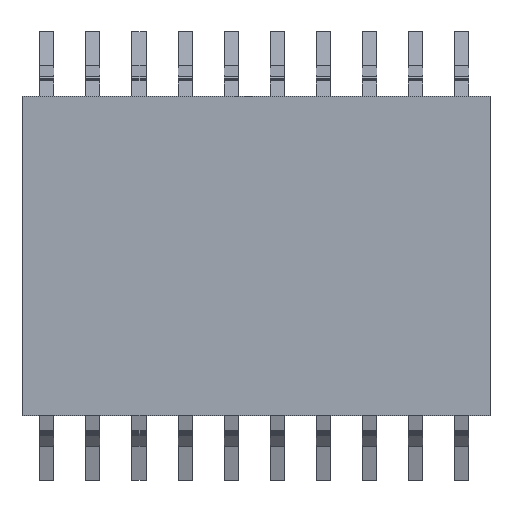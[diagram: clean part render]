
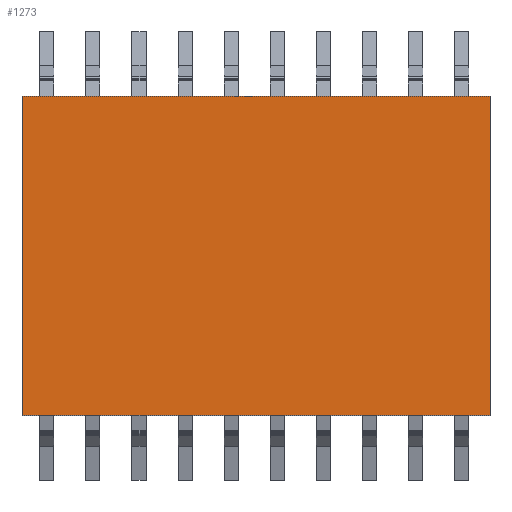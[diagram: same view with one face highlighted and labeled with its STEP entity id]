
A CAD part, top view. The second image highlights one B-rep face of the part: STEP entity #1273.
In plain terms, the highlighted planar face has unit normal (0, 0, 1).
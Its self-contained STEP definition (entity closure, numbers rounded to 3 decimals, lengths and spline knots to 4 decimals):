
#24 = VERTEX_POINT('',#25);
#25 = CARTESIAN_POINT('',(-3.3,-2.25,1.));
#32 = PLANE('',#33);
#33 = AXIS2_PLACEMENT_3D('',#34,#35,#36);
#34 = CARTESIAN_POINT('',(-3.3,-2.25,0.));
#35 = DIRECTION('',(1.,0.,0.));
#36 = DIRECTION('',(0.,0.,1.));
#44 = PLANE('',#45);
#45 = AXIS2_PLACEMENT_3D('',#46,#47,#48);
#46 = CARTESIAN_POINT('',(-3.3,-2.25,0.));
#47 = DIRECTION('',(0.,1.,0.));
#48 = DIRECTION('',(0.,0.,1.));
#85 = VERTEX_POINT('',#86);
#86 = CARTESIAN_POINT('',(-3.3,2.25,1.));
#100 = PLANE('',#101);
#101 = AXIS2_PLACEMENT_3D('',#102,#103,#104);
#102 = CARTESIAN_POINT('',(-3.3,2.25,0.));
#103 = DIRECTION('',(0.,1.,0.));
#104 = DIRECTION('',(0.,0.,1.));
#112 = EDGE_CURVE('',#24,#85,#113,.T.);
#113 = SURFACE_CURVE('',#114,(#118,#125),.PCURVE_S1.);
#114 = LINE('',#115,#116);
#115 = CARTESIAN_POINT('',(-3.3,-2.25,1.));
#116 = VECTOR('',#117,1.);
#117 = DIRECTION('',(0.,1.,0.));
#118 = PCURVE('',#32,#119);
#119 = DEFINITIONAL_REPRESENTATION('',(#120),#124);
#120 = LINE('',#121,#122);
#121 = CARTESIAN_POINT('',(1.,0.));
#122 = VECTOR('',#123,1.);
#123 = DIRECTION('',(0.,-1.));
#124 = ( GEOMETRIC_REPRESENTATION_CONTEXT(2) 
PARAMETRIC_REPRESENTATION_CONTEXT() REPRESENTATION_CONTEXT('2D SPACE',''
  ) );
#125 = PCURVE('',#126,#131);
#126 = PLANE('',#127);
#127 = AXIS2_PLACEMENT_3D('',#128,#129,#130);
#128 = CARTESIAN_POINT('',(-3.3,-2.25,1.));
#129 = DIRECTION('',(0.,0.,1.));
#130 = DIRECTION('',(1.,0.,0.));
#131 = DEFINITIONAL_REPRESENTATION('',(#132),#136);
#132 = LINE('',#133,#134);
#133 = CARTESIAN_POINT('',(0.,0.));
#134 = VECTOR('',#135,1.);
#135 = DIRECTION('',(0.,1.));
#136 = ( GEOMETRIC_REPRESENTATION_CONTEXT(2) 
PARAMETRIC_REPRESENTATION_CONTEXT() REPRESENTATION_CONTEXT('2D SPACE',''
  ) );
#165 = EDGE_CURVE('',#24,#166,#168,.T.);
#166 = VERTEX_POINT('',#167);
#167 = CARTESIAN_POINT('',(3.3,-2.25,1.));
#168 = SURFACE_CURVE('',#169,(#173,#180),.PCURVE_S1.);
#169 = LINE('',#170,#171);
#170 = CARTESIAN_POINT('',(-3.3,-2.25,1.));
#171 = VECTOR('',#172,1.);
#172 = DIRECTION('',(1.,0.,0.));
#173 = PCURVE('',#44,#174);
#174 = DEFINITIONAL_REPRESENTATION('',(#175),#179);
#175 = LINE('',#176,#177);
#176 = CARTESIAN_POINT('',(1.,0.));
#177 = VECTOR('',#178,1.);
#178 = DIRECTION('',(0.,1.));
#179 = ( GEOMETRIC_REPRESENTATION_CONTEXT(2) 
PARAMETRIC_REPRESENTATION_CONTEXT() REPRESENTATION_CONTEXT('2D SPACE',''
  ) );
#180 = PCURVE('',#126,#181);
#181 = DEFINITIONAL_REPRESENTATION('',(#182),#186);
#182 = LINE('',#183,#184);
#183 = CARTESIAN_POINT('',(0.,0.));
#184 = VECTOR('',#185,1.);
#185 = DIRECTION('',(1.,0.));
#186 = ( GEOMETRIC_REPRESENTATION_CONTEXT(2) 
PARAMETRIC_REPRESENTATION_CONTEXT() REPRESENTATION_CONTEXT('2D SPACE',''
  ) );
#202 = PLANE('',#203);
#203 = AXIS2_PLACEMENT_3D('',#204,#205,#206);
#204 = CARTESIAN_POINT('',(3.3,-2.25,0.));
#205 = DIRECTION('',(1.,0.,0.));
#206 = DIRECTION('',(0.,0.,1.));
#1273 = ADVANCED_FACE('',(#1274),#126,.T.);
#1274 = FACE_BOUND('',#1275,.T.);
#1275 = EDGE_LOOP('',(#1276,#1277,#1278,#1301));
#1276 = ORIENTED_EDGE('',*,*,#112,.F.);
#1277 = ORIENTED_EDGE('',*,*,#165,.T.);
#1278 = ORIENTED_EDGE('',*,*,#1279,.T.);
#1279 = EDGE_CURVE('',#166,#1280,#1282,.T.);
#1280 = VERTEX_POINT('',#1281);
#1281 = CARTESIAN_POINT('',(3.3,2.25,1.));
#1282 = SURFACE_CURVE('',#1283,(#1287,#1294),.PCURVE_S1.);
#1283 = LINE('',#1284,#1285);
#1284 = CARTESIAN_POINT('',(3.3,-2.25,1.));
#1285 = VECTOR('',#1286,1.);
#1286 = DIRECTION('',(0.,1.,0.));
#1287 = PCURVE('',#126,#1288);
#1288 = DEFINITIONAL_REPRESENTATION('',(#1289),#1293);
#1289 = LINE('',#1290,#1291);
#1290 = CARTESIAN_POINT('',(6.6,0.));
#1291 = VECTOR('',#1292,1.);
#1292 = DIRECTION('',(0.,1.));
#1293 = ( GEOMETRIC_REPRESENTATION_CONTEXT(2) 
PARAMETRIC_REPRESENTATION_CONTEXT() REPRESENTATION_CONTEXT('2D SPACE',''
  ) );
#1294 = PCURVE('',#202,#1295);
#1295 = DEFINITIONAL_REPRESENTATION('',(#1296),#1300);
#1296 = LINE('',#1297,#1298);
#1297 = CARTESIAN_POINT('',(1.,0.));
#1298 = VECTOR('',#1299,1.);
#1299 = DIRECTION('',(0.,-1.));
#1300 = ( GEOMETRIC_REPRESENTATION_CONTEXT(2) 
PARAMETRIC_REPRESENTATION_CONTEXT() REPRESENTATION_CONTEXT('2D SPACE',''
  ) );
#1301 = ORIENTED_EDGE('',*,*,#1302,.F.);
#1302 = EDGE_CURVE('',#85,#1280,#1303,.T.);
#1303 = SURFACE_CURVE('',#1304,(#1308,#1315),.PCURVE_S1.);
#1304 = LINE('',#1305,#1306);
#1305 = CARTESIAN_POINT('',(-3.3,2.25,1.));
#1306 = VECTOR('',#1307,1.);
#1307 = DIRECTION('',(1.,0.,0.));
#1308 = PCURVE('',#126,#1309);
#1309 = DEFINITIONAL_REPRESENTATION('',(#1310),#1314);
#1310 = LINE('',#1311,#1312);
#1311 = CARTESIAN_POINT('',(0.,4.5));
#1312 = VECTOR('',#1313,1.);
#1313 = DIRECTION('',(1.,0.));
#1314 = ( GEOMETRIC_REPRESENTATION_CONTEXT(2) 
PARAMETRIC_REPRESENTATION_CONTEXT() REPRESENTATION_CONTEXT('2D SPACE',''
  ) );
#1315 = PCURVE('',#100,#1316);
#1316 = DEFINITIONAL_REPRESENTATION('',(#1317),#1321);
#1317 = LINE('',#1318,#1319);
#1318 = CARTESIAN_POINT('',(1.,0.));
#1319 = VECTOR('',#1320,1.);
#1320 = DIRECTION('',(0.,1.));
#1321 = ( GEOMETRIC_REPRESENTATION_CONTEXT(2) 
PARAMETRIC_REPRESENTATION_CONTEXT() REPRESENTATION_CONTEXT('2D SPACE',''
  ) );
